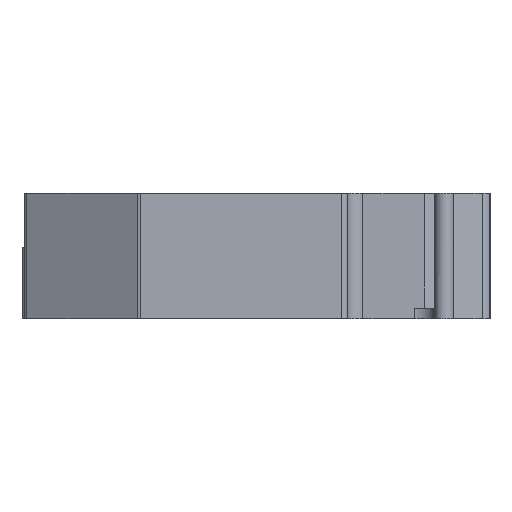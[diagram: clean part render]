
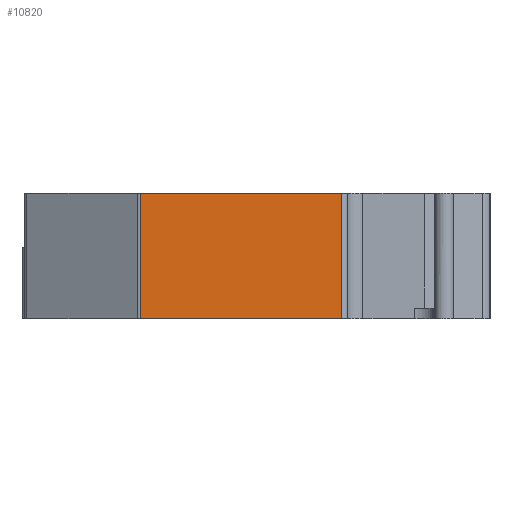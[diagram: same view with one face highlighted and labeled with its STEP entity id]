
A CAD part, left-side view. The second image highlights one B-rep face of the part: STEP entity #10820.
In plain terms, the highlighted planar face has unit normal (-1, 0, 0).
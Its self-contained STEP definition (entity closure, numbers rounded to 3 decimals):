
#53 = ORIENTED_EDGE ( 'NONE', *, *, #7855, .T. ) ;
#476 = LINE ( 'NONE', #18585, #5945 ) ;
#2918 = ORIENTED_EDGE ( 'NONE', *, *, #12080, .T. ) ;
#3005 = LINE ( 'NONE', #7009, #21301 ) ;
#3033 = EDGE_CURVE ( 'NONE', #15560, #13004, #476, .T. ) ;
#5314 = VECTOR ( 'NONE', #12186, 1000. ) ;
#5945 = VECTOR ( 'NONE', #16716, 1000. ) ;
#6933 = CARTESIAN_POINT ( 'NONE',  ( -46.7, -11.132, 0. ) ) ;
#6949 = FACE_OUTER_BOUND ( 'NONE', #20091, .T. ) ;
#7009 = CARTESIAN_POINT ( 'NONE',  ( -46.7, -10.999, 12. ) ) ;
#7855 = EDGE_CURVE ( 'NONE', #11252, #15560, #7928, .T. ) ;
#7928 = LINE ( 'NONE', #21551, #5314 ) ;
#8849 = PLANE ( 'NONE',  #9247 ) ;
#9247 = AXIS2_PLACEMENT_3D ( 'NONE', #14633, #22032, #12592 ) ;
#10185 = ORIENTED_EDGE ( 'NONE', *, *, #3033, .T. ) ;
#10820 = ADVANCED_FACE ( 'NONE', ( #6949 ), #8849, .F. ) ;
#11252 = VERTEX_POINT ( 'NONE', #16585 ) ;
#12080 = EDGE_CURVE ( 'NONE', #13004, #12578, #18794, .T. ) ;
#12186 = DIRECTION ( 'NONE',  ( 0., 0., -1. ) ) ;
#12578 = VERTEX_POINT ( 'NONE', #16190 ) ;
#12592 = DIRECTION ( 'NONE',  ( 0., 1., 0. ) ) ;
#12843 = DIRECTION ( 'NONE',  ( 0., 0., 1. ) ) ;
#13004 = VERTEX_POINT ( 'NONE', #13420 ) ;
#13420 = CARTESIAN_POINT ( 'NONE',  ( -46.7, -30.5, 0. ) ) ;
#13830 = ORIENTED_EDGE ( 'NONE', *, *, #23962, .F. ) ;
#14633 = CARTESIAN_POINT ( 'NONE',  ( -46.7, -10.999, 12. ) ) ;
#15282 = VECTOR ( 'NONE', #12843, 1000. ) ;
#15560 = VERTEX_POINT ( 'NONE', #6933 ) ;
#16190 = CARTESIAN_POINT ( 'NONE',  ( -46.7, -30.5, 12. ) ) ;
#16585 = CARTESIAN_POINT ( 'NONE',  ( -46.7, -11.132, 12. ) ) ;
#16716 = DIRECTION ( 'NONE',  ( 0., -1., 0. ) ) ;
#18585 = CARTESIAN_POINT ( 'NONE',  ( -46.7, -10.999, 0. ) ) ;
#18794 = LINE ( 'NONE', #24009, #15282 ) ;
#20091 = EDGE_LOOP ( 'NONE', ( #13830, #53, #10185, #2918 ) ) ;
#21301 = VECTOR ( 'NONE', #23786, 1000. ) ;
#21551 = CARTESIAN_POINT ( 'NONE',  ( -46.7, -11.132, 12. ) ) ;
#22032 = DIRECTION ( 'NONE',  ( 1., 0., 0. ) ) ;
#23786 = DIRECTION ( 'NONE',  ( 0., -1., 0. ) ) ;
#23962 = EDGE_CURVE ( 'NONE', #11252, #12578, #3005, .T. ) ;
#24009 = CARTESIAN_POINT ( 'NONE',  ( -46.7, -30.5, 12. ) ) ;
